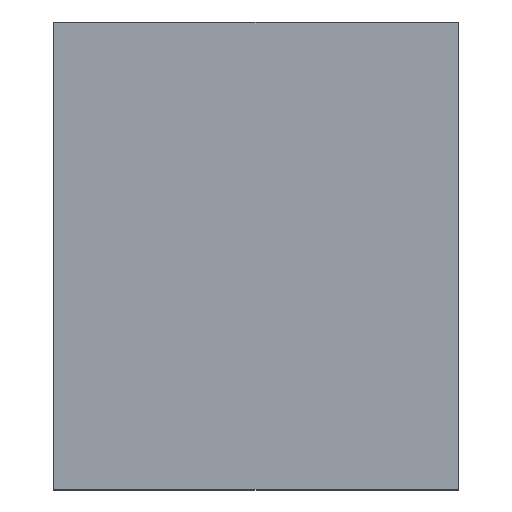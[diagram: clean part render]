
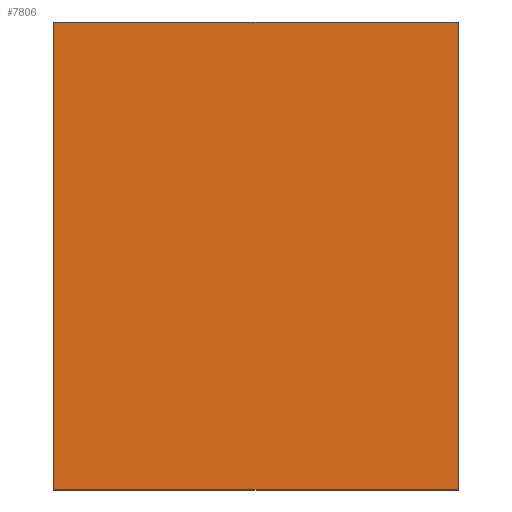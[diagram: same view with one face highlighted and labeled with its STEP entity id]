
A CAD part, top view. The second image highlights one B-rep face of the part: STEP entity #7806.
In plain terms, the highlighted planar face has unit normal (0, 0, 1).
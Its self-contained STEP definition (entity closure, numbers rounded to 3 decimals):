
#321 = PLANE('',#322);
#322 = AXIS2_PLACEMENT_3D('',#323,#324,#325);
#323 = CARTESIAN_POINT('',(0.,0.,0.));
#324 = DIRECTION('',(0.,1.,0.));
#325 = DIRECTION('',(1.,0.,0.));
#349 = PLANE('',#350);
#350 = AXIS2_PLACEMENT_3D('',#351,#352,#353);
#351 = CARTESIAN_POINT('',(32.,0.,0.));
#352 = DIRECTION('',(-1.,0.,0.));
#353 = DIRECTION('',(0.,1.,0.));
#377 = PLANE('',#378);
#378 = AXIS2_PLACEMENT_3D('',#379,#380,#381);
#379 = CARTESIAN_POINT('',(32.,37.,0.));
#380 = DIRECTION('',(0.,-1.,0.));
#381 = DIRECTION('',(-1.,0.,0.));
#403 = PLANE('',#404);
#404 = AXIS2_PLACEMENT_3D('',#405,#406,#407);
#405 = CARTESIAN_POINT('',(0.,37.,0.));
#406 = DIRECTION('',(1.,0.,0.));
#407 = DIRECTION('',(0.,-1.,0.));
#3067 = VERTEX_POINT('',#3068);
#3068 = CARTESIAN_POINT('',(0.,0.,13.14));
#3089 = EDGE_CURVE('',#3067,#3090,#3092,.T.);
#3090 = VERTEX_POINT('',#3091);
#3091 = CARTESIAN_POINT('',(32.,0.,13.14));
#3092 = SURFACE_CURVE('',#3093,(#3097,#3104),.PCURVE_S1.);
#3093 = LINE('',#3094,#3095);
#3094 = CARTESIAN_POINT('',(0.,0.,13.14));
#3095 = VECTOR('',#3096,1.);
#3096 = DIRECTION('',(1.,0.,0.));
#3097 = PCURVE('',#321,#3098);
#3098 = DEFINITIONAL_REPRESENTATION('',(#3099),#3103);
#3099 = LINE('',#3100,#3101);
#3100 = CARTESIAN_POINT('',(0.,-13.14));
#3101 = VECTOR('',#3102,1.);
#3102 = DIRECTION('',(1.,0.));
#3103 = ( GEOMETRIC_REPRESENTATION_CONTEXT(2) 
PARAMETRIC_REPRESENTATION_CONTEXT() REPRESENTATION_CONTEXT('2D SPACE',''
  ) );
#3104 = PCURVE('',#3105,#3110);
#3105 = PLANE('',#3106);
#3106 = AXIS2_PLACEMENT_3D('',#3107,#3108,#3109);
#3107 = CARTESIAN_POINT('',(16.,18.5,13.14));
#3108 = DIRECTION('',(0.,0.,1.));
#3109 = DIRECTION('',(1.,0.,0.));
#3110 = DEFINITIONAL_REPRESENTATION('',(#3111),#3115);
#3111 = LINE('',#3112,#3113);
#3112 = CARTESIAN_POINT('',(-16.,-18.5));
#3113 = VECTOR('',#3114,1.);
#3114 = DIRECTION('',(1.,0.));
#3115 = ( GEOMETRIC_REPRESENTATION_CONTEXT(2) 
PARAMETRIC_REPRESENTATION_CONTEXT() REPRESENTATION_CONTEXT('2D SPACE',''
  ) );
#3143 = VERTEX_POINT('',#3144);
#3144 = CARTESIAN_POINT('',(0.,37.,13.14));
#3165 = EDGE_CURVE('',#3143,#3067,#3166,.T.);
#3166 = SURFACE_CURVE('',#3167,(#3171,#3178),.PCURVE_S1.);
#3167 = LINE('',#3168,#3169);
#3168 = CARTESIAN_POINT('',(0.,37.,13.14));
#3169 = VECTOR('',#3170,1.);
#3170 = DIRECTION('',(0.,-1.,0.));
#3171 = PCURVE('',#403,#3172);
#3172 = DEFINITIONAL_REPRESENTATION('',(#3173),#3177);
#3173 = LINE('',#3174,#3175);
#3174 = CARTESIAN_POINT('',(0.,-13.14));
#3175 = VECTOR('',#3176,1.);
#3176 = DIRECTION('',(1.,0.));
#3177 = ( GEOMETRIC_REPRESENTATION_CONTEXT(2) 
PARAMETRIC_REPRESENTATION_CONTEXT() REPRESENTATION_CONTEXT('2D SPACE',''
  ) );
#3178 = PCURVE('',#3105,#3179);
#3179 = DEFINITIONAL_REPRESENTATION('',(#3180),#3184);
#3180 = LINE('',#3181,#3182);
#3181 = CARTESIAN_POINT('',(-16.,18.5));
#3182 = VECTOR('',#3183,1.);
#3183 = DIRECTION('',(0.,-1.));
#3184 = ( GEOMETRIC_REPRESENTATION_CONTEXT(2) 
PARAMETRIC_REPRESENTATION_CONTEXT() REPRESENTATION_CONTEXT('2D SPACE',''
  ) );
#3192 = EDGE_CURVE('',#3090,#3193,#3195,.T.);
#3193 = VERTEX_POINT('',#3194);
#3194 = CARTESIAN_POINT('',(32.,37.,13.14));
#3195 = SURFACE_CURVE('',#3196,(#3200,#3207),.PCURVE_S1.);
#3196 = LINE('',#3197,#3198);
#3197 = CARTESIAN_POINT('',(32.,0.,13.14));
#3198 = VECTOR('',#3199,1.);
#3199 = DIRECTION('',(0.,1.,0.));
#3200 = PCURVE('',#349,#3201);
#3201 = DEFINITIONAL_REPRESENTATION('',(#3202),#3206);
#3202 = LINE('',#3203,#3204);
#3203 = CARTESIAN_POINT('',(0.,-13.14));
#3204 = VECTOR('',#3205,1.);
#3205 = DIRECTION('',(1.,0.));
#3206 = ( GEOMETRIC_REPRESENTATION_CONTEXT(2) 
PARAMETRIC_REPRESENTATION_CONTEXT() REPRESENTATION_CONTEXT('2D SPACE',''
  ) );
#3207 = PCURVE('',#3105,#3208);
#3208 = DEFINITIONAL_REPRESENTATION('',(#3209),#3213);
#3209 = LINE('',#3210,#3211);
#3210 = CARTESIAN_POINT('',(16.,-18.5));
#3211 = VECTOR('',#3212,1.);
#3212 = DIRECTION('',(0.,1.));
#3213 = ( GEOMETRIC_REPRESENTATION_CONTEXT(2) 
PARAMETRIC_REPRESENTATION_CONTEXT() REPRESENTATION_CONTEXT('2D SPACE',''
  ) );
#3241 = EDGE_CURVE('',#3193,#3143,#3242,.T.);
#3242 = SURFACE_CURVE('',#3243,(#3247,#3254),.PCURVE_S1.);
#3243 = LINE('',#3244,#3245);
#3244 = CARTESIAN_POINT('',(32.,37.,13.14));
#3245 = VECTOR('',#3246,1.);
#3246 = DIRECTION('',(-1.,0.,0.));
#3247 = PCURVE('',#377,#3248);
#3248 = DEFINITIONAL_REPRESENTATION('',(#3249),#3253);
#3249 = LINE('',#3250,#3251);
#3250 = CARTESIAN_POINT('',(0.,-13.14));
#3251 = VECTOR('',#3252,1.);
#3252 = DIRECTION('',(1.,0.));
#3253 = ( GEOMETRIC_REPRESENTATION_CONTEXT(2) 
PARAMETRIC_REPRESENTATION_CONTEXT() REPRESENTATION_CONTEXT('2D SPACE',''
  ) );
#3254 = PCURVE('',#3105,#3255);
#3255 = DEFINITIONAL_REPRESENTATION('',(#3256),#3260);
#3256 = LINE('',#3257,#3258);
#3257 = CARTESIAN_POINT('',(16.,18.5));
#3258 = VECTOR('',#3259,1.);
#3259 = DIRECTION('',(-1.,0.));
#3260 = ( GEOMETRIC_REPRESENTATION_CONTEXT(2) 
PARAMETRIC_REPRESENTATION_CONTEXT() REPRESENTATION_CONTEXT('2D SPACE',''
  ) );
#7806 = ADVANCED_FACE('',(#7807),#3105,.T.);
#7807 = FACE_BOUND('',#7808,.T.);
#7808 = EDGE_LOOP('',(#7809,#7810,#7811,#7812));
#7809 = ORIENTED_EDGE('',*,*,#3089,.T.);
#7810 = ORIENTED_EDGE('',*,*,#3192,.T.);
#7811 = ORIENTED_EDGE('',*,*,#3241,.T.);
#7812 = ORIENTED_EDGE('',*,*,#3165,.T.);
